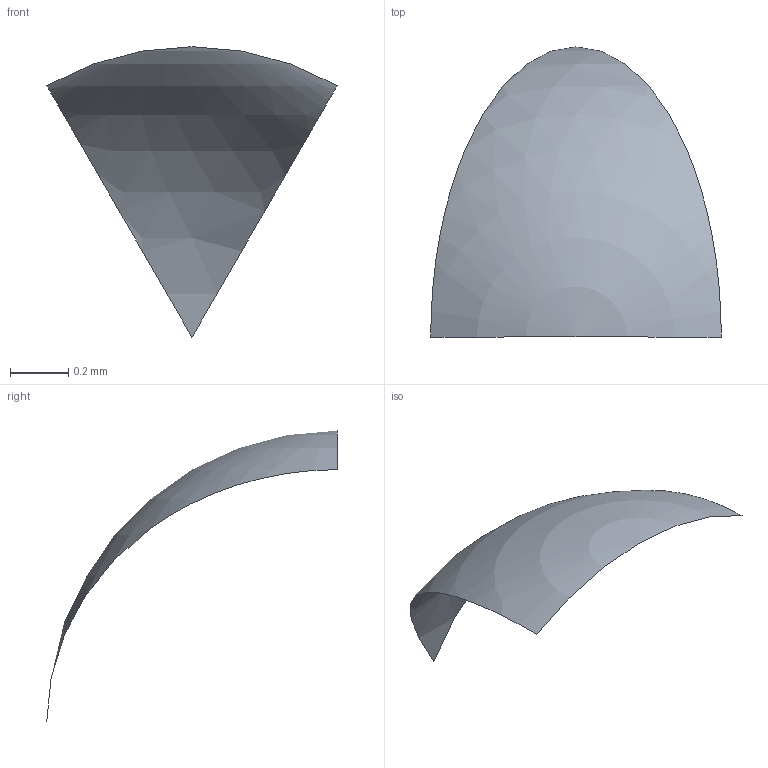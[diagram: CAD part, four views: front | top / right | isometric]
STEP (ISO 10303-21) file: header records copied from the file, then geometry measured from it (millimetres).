
FILE_DESCRIPTION(('BRL-CAD AP203 near-integer spherical winding fixture'),'2;1');
FILE_NAME('ap203_near_integer_spherical_winding.stp','2026-07-23T00:00:00',('BRL-CAD'),('BRL-CAD'),'','','');
FILE_SCHEMA(('CONFIG_CONTROL_DESIGN'));
Length unit declared in the file: metre
Products named in the file (1): near_integer_spherical_winding
Bounding box: 1 x 1 x 1 mm (x, y, z)
Surface area: 2.1 mm2 (no closed solid volume)
Topology: 1 solids, 1 shells, 2 faces, 6 edges, 4 vertices
Faces by surface type: sphere 2
Entity records: 55 total; most frequent: DIRECTION 8, ORIENTED_EDGE 6, CARTESIAN_POINT 4, AXIS2_PLACEMENT_3D 4, VERTEX_POINT 3, CIRCLE 3, EDGE_CURVE 3, EDGE_LOOP 2
